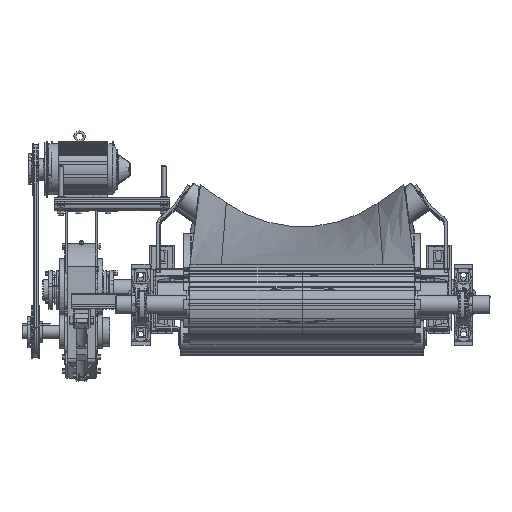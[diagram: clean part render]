
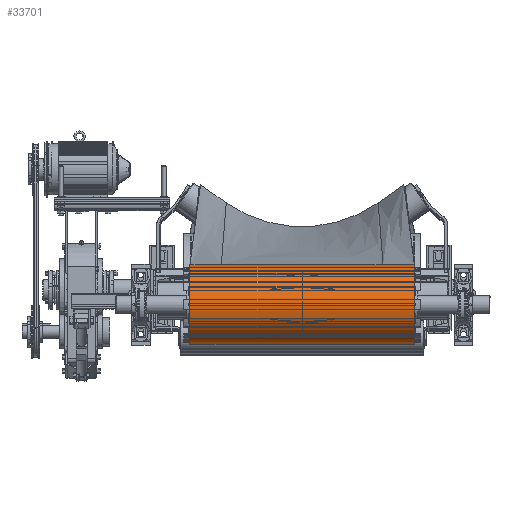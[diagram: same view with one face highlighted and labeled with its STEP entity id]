
A CAD part, top view. The second image highlights one B-rep face of the part: STEP entity #33701.
In plain terms, the highlighted cylindrical face has radius 161.925 mm (diameter 323.85 mm), a partial arc.
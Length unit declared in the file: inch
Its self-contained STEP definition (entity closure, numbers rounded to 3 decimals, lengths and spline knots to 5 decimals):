
#33527=CARTESIAN_POINT('',(5.5,-12.375,-74.7845));
#33528=VERTEX_POINT('',#33527);
#33588=CARTESIAN_POINT('',(41.5,-12.375,-74.7845));
#33589=VERTEX_POINT('',#33588);
#33618=CARTESIAN_POINT('',(41.5,-12.375,-74.7845));
#33619=DIRECTION('',(-1.0,0.0,0.0));
#33620=VECTOR('',#33619,36.0);
#33621=LINE('',#33618,#33620);
#33622=EDGE_CURVE('',#33589,#33528,#33621,.T.);
#33634=CARTESIAN_POINT('',(41.5,0.375,-74.7845));
#33635=VERTEX_POINT('',#33634);
#33636=CARTESIAN_POINT('',(41.5,-6.,-74.7845));
#33637=DIRECTION('',(-1.0,0.0,0.0));
#33638=DIRECTION('',(0.0,1.0,0.0));
#33639=AXIS2_PLACEMENT_3D('',#33636,#33637,#33638);
#33640=CIRCLE('',#33639,6.375);
#33641=EDGE_CURVE('',#33635,#33589,#33640,.T.);
#33661=CARTESIAN_POINT('',(23.5,-6.,-74.7845));
#33662=DIRECTION('',(-1.0,0.,0.));
#33663=DIRECTION('',(0.0,1.0,0.0));
#33664=AXIS2_PLACEMENT_3D('',#33661,#33662,#33663);
#33665=CYLINDRICAL_SURFACE('',#33664,6.375);
#33666=ORIENTED_EDGE('',*,*,#33622,.T.);
#33667=CARTESIAN_POINT('',(5.5,0.375,-74.7845));
#33668=VERTEX_POINT('',#33667);
#33669=CARTESIAN_POINT('',(5.5,-6.,-74.7845));
#33670=DIRECTION('',(-1.0,0.0,0.0));
#33671=DIRECTION('',(0.0,1.0,0.0));
#33672=AXIS2_PLACEMENT_3D('',#33669,#33670,#33671);
#33673=CIRCLE('',#33672,6.375);
#33674=EDGE_CURVE('',#33668,#33528,#33673,.T.);
#33675=ORIENTED_EDGE('',*,*,#33674,.F.);
#33676=CARTESIAN_POINT('',(10.53102,0.375,-74.7845));
#33677=VERTEX_POINT('',#33676);
#33678=CARTESIAN_POINT('',(5.5,0.375,-74.7845));
#33679=DIRECTION('',(1.0,0.0,0.0));
#33680=VECTOR('',#33679,5.03102);
#33681=LINE('',#33678,#33680);
#33682=EDGE_CURVE('',#33668,#33677,#33681,.T.);
#33683=ORIENTED_EDGE('',*,*,#33682,.T.);
#33684=CARTESIAN_POINT('',(36.46898,0.375,-74.7845));
#33685=VERTEX_POINT('',#33684);
#33686=CARTESIAN_POINT('',(10.53102,0.375,-74.7845));
#33687=DIRECTION('',(1.0,0.0,0.0));
#33688=VECTOR('',#33687,25.93796);
#33689=LINE('',#33686,#33688);
#33690=EDGE_CURVE('',#33677,#33685,#33689,.T.);
#33691=ORIENTED_EDGE('',*,*,#33690,.T.);
#33692=CARTESIAN_POINT('',(36.46898,0.375,-74.7845));
#33693=DIRECTION('',(1.0,0.0,0.0));
#33694=VECTOR('',#33693,5.03102);
#33695=LINE('',#33692,#33694);
#33696=EDGE_CURVE('',#33685,#33635,#33695,.T.);
#33697=ORIENTED_EDGE('',*,*,#33696,.T.);
#33698=ORIENTED_EDGE('',*,*,#33641,.T.);
#33699=EDGE_LOOP('',(#33666,#33675,#33683,#33691,#33697,#33698));
#33700=FACE_OUTER_BOUND('',#33699,.T.);
#33701=ADVANCED_FACE('',(#33700),#33665,.T.);
